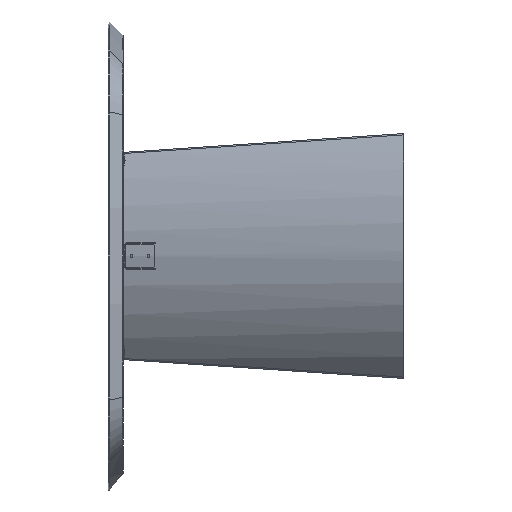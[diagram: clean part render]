
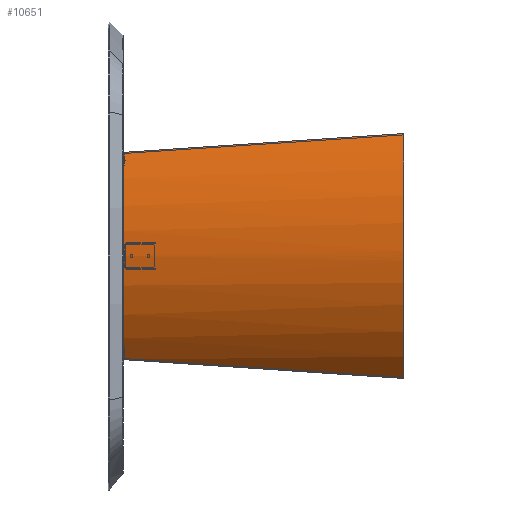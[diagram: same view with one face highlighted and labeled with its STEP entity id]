
A CAD part, left-side view. The second image highlights one B-rep face of the part: STEP entity #10651.
In plain terms, the highlighted cylindrical face has radius 455 mm (diameter 910 mm), a partial arc.
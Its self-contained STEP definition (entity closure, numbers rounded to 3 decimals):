
#381 = ORIENTED_EDGE ( 'NONE', *, *, #7474, .F. ) ;
#488 = CARTESIAN_POINT ( 'NONE',  ( 126.14, 1.243, -3.458 ) ) ;
#494 = ORIENTED_EDGE ( 'NONE', *, *, #6616, .T. ) ;
#867 = CARTESIAN_POINT ( 'NONE',  ( 0., 720., -186.04 ) ) ;
#914 = CARTESIAN_POINT ( 'NONE',  ( -282.752, 482.074, -225.637 ) ) ;
#1051 = EDGE_CURVE ( 'NONE', #12620, #6693, #8559, .T. ) ;
#1059 = VERTEX_POINT ( 'NONE', #9249 ) ;
#1255 = CARTESIAN_POINT ( 'NONE',  ( 0., -112.631, -440.677 ) ) ;
#1299 = AXIS2_PLACEMENT_3D ( 'NONE', #1255, #5443, #6278 ) ;
#1683 = VERTEX_POINT ( 'NONE', #11751 ) ;
#1836 = CARTESIAN_POINT ( 'NONE',  ( -265.753, 720., -274.535 ) ) ;
#2208 = CARTESIAN_POINT ( 'NONE',  ( -231.469, 1.123, -48.677 ) ) ;
#2386 = CARTESIAN_POINT ( 'NONE',  ( 187.694, 720., -216.518 ) ) ;
#2616 = FACE_OUTER_BOUND ( 'NONE', #6391, .T. ) ;
#2679 = DIRECTION ( 'NONE',  ( 0., -0.25, -0.968 ) ) ;
#3376 = CARTESIAN_POINT ( 'NONE',  ( 265.753, 720., -274.535 ) ) ;
#3448 = CARTESIAN_POINT ( 'NONE',  ( 282.752, 482.074, -225.637 ) ) ;
#3924 = CARTESIAN_POINT ( 'NONE',  ( 0., 720., -186.04 ) ) ;
#3957 =( BOUNDED_CURVE ( )  B_SPLINE_CURVE ( 3, ( #8135, #2208, #12086, #10918 ),
 .UNSPECIFIED., .F., .T. ) 
 B_SPLINE_CURVE_WITH_KNOTS ( ( 4, 4 ),
 ( 5.521, 6.257 ),
 .UNSPECIFIED. ) 
 CURVE ( )  GEOMETRIC_REPRESENTATION_ITEM ( )  RATIONAL_B_SPLINE_CURVE ( ( 1., 0.955, 0.955, 1. ) ) 
 REPRESENTATION_ITEM ( '' )  );
#3971 = ORIENTED_EDGE ( 'NONE', *, *, #9465, .T. ) ;
#4301 = CARTESIAN_POINT ( 'NONE',  ( 265.753, 720., -274.535 ) ) ;
#4333 = EDGE_CURVE ( 'NONE', #1683, #9013, #12650, .T. ) ;
#4435 = VERTEX_POINT ( 'NONE', #5377 ) ;
#4774 =( BOUNDED_CURVE ( )  B_SPLINE_CURVE ( 3, ( #12513, #488, #5317, #12312 ),
 .UNSPECIFIED., .F., .T. ) 
 B_SPLINE_CURVE_WITH_KNOTS ( ( 4, 4 ),
 ( 0.027, 0.762 ),
 .UNSPECIFIED. ) 
 CURVE ( )  GEOMETRIC_REPRESENTATION_ITEM ( )  RATIONAL_B_SPLINE_CURVE ( ( 1., 0.955, 0.955, 1. ) ) 
 REPRESENTATION_ITEM ( '' )  );
#5190 = ORIENTED_EDGE ( 'NONE', *, *, #4333, .F. ) ;
#5317 = CARTESIAN_POINT ( 'NONE',  ( 231.469, 1.123, -48.677 ) ) ;
#5377 = CARTESIAN_POINT ( 'NONE',  ( -265.753, 720., -274.535 ) ) ;
#5417 = CARTESIAN_POINT ( 'NONE',  ( -12.104, 1.251, -0.325 ) ) ;
#5443 = DIRECTION ( 'NONE',  ( 0., -0.968, 0.25 ) ) ;
#5901 = AXIS2_PLACEMENT_3D ( 'NONE', #6592, #8477, #2679 ) ;
#6278 = DIRECTION ( 'NONE',  ( -1., 0., 0. ) ) ;
#6304 = CARTESIAN_POINT ( 'NONE',  ( 0., 720., -186.04 ) ) ;
#6391 = EDGE_LOOP ( 'NONE', ( #3971, #494, #381, #11610, #5190, #6619, #10380 ) ) ;
#6592 = CARTESIAN_POINT ( 'NONE',  ( 0., 690.447, -648.367 ) ) ;
#6616 = EDGE_CURVE ( 'NONE', #7015, #4435, #11463, .T. ) ;
#6619 = ORIENTED_EDGE ( 'NONE', *, *, #6947, .T. ) ;
#6693 = VERTEX_POINT ( 'NONE', #4301 ) ;
#6947 = EDGE_CURVE ( 'NONE', #1683, #12620, #4774, .T. ) ;
#7015 = VERTEX_POINT ( 'NONE', #867 ) ;
#7441 = CYLINDRICAL_SURFACE ( 'NONE', #5901, 455. ) ;
#7474 = EDGE_CURVE ( 'NONE', #1059, #4435, #7498, .T. ) ;
#7498 =( BOUNDED_CURVE ( )  B_SPLINE_CURVE ( 3, ( #10677, #7700, #914, #1836 ),
 .UNSPECIFIED., .F., .T. ) 
 B_SPLINE_CURVE_WITH_KNOTS ( ( 4, 4 ),
 ( 1.582, 1.719 ),
 .UNSPECIFIED. ) 
 CURVE ( )  GEOMETRIC_REPRESENTATION_ITEM ( )  RATIONAL_B_SPLINE_CURVE ( ( 1., 0.998, 0.998, 1. ) ) 
 REPRESENTATION_ITEM ( '' )  );
#7581 = EDGE_CURVE ( 'NONE', #1059, #9013, #3957, .T. ) ;
#7700 = CARTESIAN_POINT ( 'NONE',  ( -298.867, 241.995, -177.363 ) ) ;
#7734 = CARTESIAN_POINT ( 'NONE',  ( -96.167, 720., -186.04 ) ) ;
#7813 = CARTESIAN_POINT ( 'NONE',  ( 314.022, 0.906, -129.942 ) ) ;
#7845 =( BOUNDED_CURVE ( )  B_SPLINE_CURVE ( 3, ( #12197, #2386, #9218, #6304 ),
 .UNSPECIFIED., .F., .T. ) 
 B_SPLINE_CURVE_WITH_KNOTS ( ( 4, 4 ),
 ( 5.659, 6.283 ),
 .UNSPECIFIED. ) 
 CURVE ( )  GEOMETRIC_REPRESENTATION_ITEM ( )  RATIONAL_B_SPLINE_CURVE ( ( 1., 0.968, 0.968, 1. ) ) 
 REPRESENTATION_ITEM ( '' )  );
#7861 = CARTESIAN_POINT ( 'NONE',  ( -187.694, 720., -216.518 ) ) ;
#8135 = CARTESIAN_POINT ( 'NONE',  ( -314.022, 0.906, -129.942 ) ) ;
#8477 = DIRECTION ( 'NONE',  ( 0., -0.968, 0.25 ) ) ;
#8559 =( BOUNDED_CURVE ( )  B_SPLINE_CURVE ( 3, ( #11253, #10293, #3448, #3376 ),
 .UNSPECIFIED., .F., .T. ) 
 B_SPLINE_CURVE_WITH_KNOTS ( ( 4, 4 ),
 ( 1.582, 1.719 ),
 .UNSPECIFIED. ) 
 CURVE ( )  GEOMETRIC_REPRESENTATION_ITEM ( )  RATIONAL_B_SPLINE_CURVE ( ( 1., 0.998, 0.998, 1. ) ) 
 REPRESENTATION_ITEM ( '' )  );
#9013 = VERTEX_POINT ( 'NONE', #5417 ) ;
#9218 = CARTESIAN_POINT ( 'NONE',  ( 96.167, 720., -186.04 ) ) ;
#9249 = CARTESIAN_POINT ( 'NONE',  ( -314.022, 0.906, -129.942 ) ) ;
#9465 = EDGE_CURVE ( 'NONE', #6693, #7015, #7845, .T. ) ;
#10293 = CARTESIAN_POINT ( 'NONE',  ( 298.867, 241.995, -177.363 ) ) ;
#10380 = ORIENTED_EDGE ( 'NONE', *, *, #1051, .T. ) ;
#10651 = ADVANCED_FACE ( 'NONE', ( #2616 ), #7441, .T. ) ;
#10677 = CARTESIAN_POINT ( 'NONE',  ( -314.022, 0.906, -129.942 ) ) ;
#10918 = CARTESIAN_POINT ( 'NONE',  ( -12.104, 1.251, -0.325 ) ) ;
#11253 = CARTESIAN_POINT ( 'NONE',  ( 314.022, 0.906, -129.942 ) ) ;
#11463 =( BOUNDED_CURVE ( )  B_SPLINE_CURVE ( 3, ( #3924, #7734, #7861, #11733 ),
 .UNSPECIFIED., .F., .T. ) 
 B_SPLINE_CURVE_WITH_KNOTS ( ( 4, 4 ),
 ( 0., 0.624 ),
 .UNSPECIFIED. ) 
 CURVE ( )  GEOMETRIC_REPRESENTATION_ITEM ( )  RATIONAL_B_SPLINE_CURVE ( ( 1., 0.968, 0.968, 1. ) ) 
 REPRESENTATION_ITEM ( '' )  );
#11610 = ORIENTED_EDGE ( 'NONE', *, *, #7581, .T. ) ;
#11733 = CARTESIAN_POINT ( 'NONE',  ( -265.753, 720., -274.535 ) ) ;
#11751 = CARTESIAN_POINT ( 'NONE',  ( 12.104, 1.251, -0.325 ) ) ;
#12086 = CARTESIAN_POINT ( 'NONE',  ( -126.14, 1.243, -3.458 ) ) ;
#12197 = CARTESIAN_POINT ( 'NONE',  ( 265.753, 720., -274.535 ) ) ;
#12312 = CARTESIAN_POINT ( 'NONE',  ( 314.022, 0.906, -129.942 ) ) ;
#12513 = CARTESIAN_POINT ( 'NONE',  ( 12.104, 1.251, -0.325 ) ) ;
#12620 = VERTEX_POINT ( 'NONE', #7813 ) ;
#12650 = CIRCLE ( 'NONE', #1299, 455. ) ;
